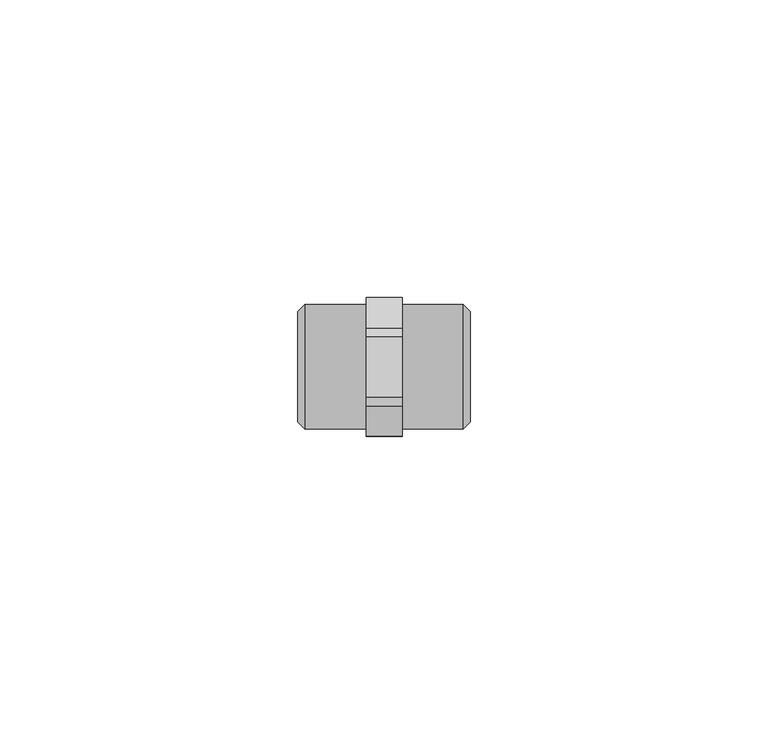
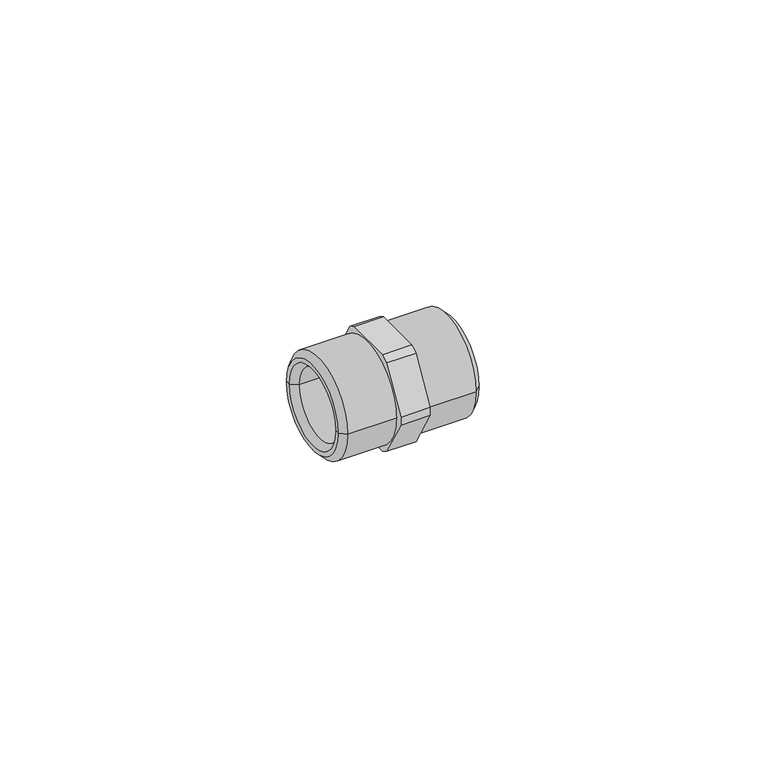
"""IFC4 building model written with IfcOpenShell, lengths in millimetres: pipe fitting geometry."""

from ifc_helpers import new_model, si_unit, point, frame, frame_2d, origin, place, context, project, spatial, polyline, circle_curve, trimmed, segment, composite_curve, outline, extrude, source, transform, mapped, element, save
from ifc_brep_helpers import plane_surface, cylinder_surface, revolved_surface, advanced_brep


def pipe_fitting_8efa302d(model_context):
    return source(origin(), model_context, "Body", "SolidModel", [
        extrude(outline(composite_curve([segment(trimmed(circle_curve(frame_2d((1.6797613, 2.909432)), 8.3039153), [point((5.0469986, 10.5))], [point((6.5697674, 9.620829))], False, "CARTESIAN"), True, "CONTINUOUS"), segment(polyline([(6.5697674, 9.620829), (11.6168203, 0.8790771)]), True, "CONTINUOUS"), segment(trimmed(circle_curve(frame_2d((3.5286375, 0.0)), 8.1358144), [point((11.6168203, 0.8790771))], [point((11.6168203, -0.8790771))], False, "CARTESIAN"), True, "CONTINUOUS"), segment(polyline([(11.6168203, -0.8790771), (6.569838, -9.6207068)]), True, "CONTINUOUS"), segment(trimmed(circle_curve(frame_2d((2.0180152, -3.7025928)), 7.4661345), [point((6.569838, -9.6207068))], [point((5.1064484, -10.5))], False, "CARTESIAN"), True, "CONTINUOUS"), segment(polyline([(5.1064484, -10.5), (-5.0469315, -10.5)]), True, "CONTINUOUS"), segment(trimmed(circle_curve(frame_2d((-2.6479149, -4.5863231)), 6.3817595), [point((-5.0469315, -10.5))], [point((-6.569801, -9.6207708))], False, "CARTESIAN"), True, "CONTINUOUS"), segment(polyline([(-6.569801, -9.6207708), (-11.6167813, -0.8791445)]), True, "CONTINUOUS"), segment(trimmed(circle_curve(frame_2d((-5.3215679, 0.0)), 6.3563045), [point((-11.6167813, -0.8791445))], [point((-11.6167813, 0.8791445))], False, "CARTESIAN"), True, "CONTINUOUS"), segment(polyline([(-11.6167813, 0.8791445), (-6.5697034, 9.6209398)]), True, "CONTINUOUS"), segment(trimmed(circle_curve(frame_2d((-2.9855673, 5.1712251)), 5.7136672), [point((-6.5697034, 9.6209398))], [point((-5.0471569, 10.5))], False, "CARTESIAN"), True, "CONTINUOUS"), segment(polyline([(-5.0471569, 10.5), (5.0469986, 10.5)]), True, "CONTINUOUS")], self_intersect=False)), frame((-2.992756, 0.0, 0.0), z_axis=(1.0, 0.0, 0.0), x_axis=(0.0, 1.0, 0.0)), (0.0, 0.0, 1.0), 6.0234902),
        advanced_brep(
        [(-14.5, -9.275001, 0.0), (-14.5, 9.275001, 0.0), (-13.2999999, 10.4750011, 0.0), (-13.2999999, -10.4750011, 0.0), (-14.5, -8.356519, 0.0), (-14.5, 8.356519, 0.0), (-13.0837207, -7.2500004, 0.0), (-13.0837207, 7.2500004, 0.0), (13.0837207, -7.2500004, 0.0), (13.0837207, 7.2500004, 0.0), (14.5, -8.356519, 0.0), (14.5, 8.356519, 0.0), (14.5, -9.275001, 0.0), (14.5, 9.275001, 0.0), (13.2999999, -10.4750011, 0.0), (13.2999999, 10.4750011, 0.0)],
        [
            (0, 1, circle_curve(frame((-14.5, 0.0, 0.0), z_axis=(1.0, 0.0, 0.0), x_axis=(0.0, 1.0, 0.0)), 9.275001)),
            (1, 2),
            (2, 3, circle_curve(frame((-13.2999999, 0.0, 0.0), z_axis=(-1.0, 0.0, 0.0), x_axis=(0.0, 1.0, 0.0)), 10.4750011)),
            (3, 0),
            (1, 0, circle_curve(frame((-14.5, 0.0, 0.0), z_axis=(1.0, 0.0, 0.0), x_axis=(0.0, 1.0, 0.0)), 9.275001)),
            (3, 2, circle_curve(frame((-13.2999999, 0.0, 0.0), z_axis=(-1.0, 0.0, 0.0), x_axis=(0.0, 1.0, 0.0)), 10.4750011)),
            (4, 5, circle_curve(frame((-14.5, 0.0, 0.0), z_axis=(1.0, 0.0, 0.0), x_axis=(0.0, 1.0, 0.0)), 8.356519)),
            (5, 1),
            (0, 4),
            (5, 4, circle_curve(frame((-14.5, 0.0, 0.0), z_axis=(1.0, 0.0, 0.0), x_axis=(0.0, 1.0, 0.0)), 8.356519)),
            (6, 7, circle_curve(frame((-13.0837207, 0.0, 0.0), z_axis=(1.0, 0.0, 0.0), x_axis=(0.0, 1.0, 0.0)), 7.2500004)),
            (7, 5),
            (4, 6),
            (7, 6, circle_curve(frame((-13.0837207, 0.0, 0.0), z_axis=(1.0, 0.0, 0.0), x_axis=(0.0, 1.0, 0.0)), 7.2500004)),
            (8, 9, circle_curve(frame((13.0837207, 0.0, 0.0), z_axis=(1.0, 0.0, 0.0), x_axis=(0.0, 1.0, 0.0)), 7.2500004)),
            (9, 7),
            (6, 8),
            (9, 8, circle_curve(frame((13.0837207, 0.0, 0.0), z_axis=(1.0, 0.0, 0.0), x_axis=(0.0, 1.0, 0.0)), 7.2500004)),
            (10, 11, circle_curve(frame((14.5, 0.0, 0.0), z_axis=(1.0, 0.0, 0.0), x_axis=(0.0, 1.0, 0.0)), 8.356519)),
            (11, 9),
            (8, 10),
            (11, 10, circle_curve(frame((14.5, 0.0, 0.0), z_axis=(1.0, 0.0, 0.0), x_axis=(0.0, 1.0, 0.0)), 8.356519)),
            (12, 13, circle_curve(frame((14.5, 0.0, 0.0), z_axis=(1.0, 0.0, 0.0), x_axis=(0.0, 1.0, 0.0)), 9.275001)),
            (13, 11),
            (10, 12),
            (13, 12, circle_curve(frame((14.5, 0.0, 0.0), z_axis=(1.0, 0.0, 0.0), x_axis=(0.0, 1.0, 0.0)), 9.275001)),
            (14, 15, circle_curve(frame((13.2999999, 0.0, 0.0), z_axis=(1.0, 0.0, 0.0), x_axis=(0.0, 1.0, 0.0)), 10.4750011)),
            (15, 13),
            (12, 14),
            (15, 14, circle_curve(frame((13.2999999, 0.0, 0.0), z_axis=(1.0, 0.0, 0.0), x_axis=(0.0, 1.0, 0.0)), 10.4750011)),
            (2, 15),
            (14, 3),
        ],
        [
            revolved_surface(polyline([(-13.2999999, 10.4750011, 0.0), (-14.5, 9.275001, 0.0)]), (-29.5, 0.0, 0.0), (-1.0, 0.0, 0.0)),
            plane_surface(frame((-14.5, 0.0, 0.0), z_axis=(-1.0, 0.0, 0.0), x_axis=(0.0, 1.0, 0.0))),
            revolved_surface(polyline([(-14.5, 8.356519, 0.0), (-13.0837207, 7.2500004, 0.0)]), (-29.5, 0.0, 0.0), (-1.0, 0.0, 0.0)),
            revolved_surface(polyline([(-13.0837207, 7.2500004, 0.0), (13.0837207, 7.2500004, 0.0)]), (-29.5, 0.0, 0.0), (-1.0, 0.0, 0.0)),
            revolved_surface(polyline([(13.0837207, 7.2500004, 0.0), (14.5, 8.356519, 0.0)]), (-29.5, 0.0, 0.0), (-1.0, 0.0, 0.0)),
            plane_surface(frame((14.5, 0.0, 0.0), z_axis=(1.0, 0.0, 0.0), x_axis=(0.0, 1.0, 0.0))),
            revolved_surface(polyline([(14.5, 9.275001, 0.0), (13.2999999, 10.4750011, 0.0)]), (-29.5, 0.0, 0.0), (-1.0, 0.0, 0.0)),
            cylinder_surface(frame((-29.5, 0.0, 0.0), z_axis=(-1.0, 0.0, 0.0), x_axis=(0.0, 1.0, 0.0)), 10.4750011),
        ],
        [
            (0, [[1, 2, 3, 4]]),
            (0, [[5, -4, 6, -2]]),
            (1, [[7, 8, -1, 9]]),
            (1, [[10, -9, -5, -8]]),
            (2, [[11, 12, -7, 13]]),
            (2, [[14, -13, -10, -12]]),
            (3, [[15, 16, -11, 17]]),
            (3, [[18, -17, -14, -16]]),
            (4, [[19, 20, -15, 21]]),
            (4, [[22, -21, -18, -20]]),
            (5, [[23, 24, -19, 25]]),
            (5, [[26, -25, -22, -24]]),
            (6, [[27, 28, -23, 29]]),
            (6, [[30, -29, -26, -28]]),
            (7, [[-3, 31, -27, 32]]),
            (7, [[-6, -32, -30, -31]]),
        ],
    ),
    ])


if __name__ == "__main__":
    model = new_model("IFC4")
    model_context = context("Model", 3, world=origin())
    ifc_project = project(units=[si_unit("LENGTHUNIT", "METRE", prefix="MILLI")], contexts=[model_context])
    site = spatial("IfcSite", under=ifc_project)
    building = spatial("IfcBuilding", under=site)
    placement = place(None, origin())
    pipe_fitting_shape = pipe_fitting_8efa302d(model_context)
    element("IfcPipeFitting", 1, ObjectType="Coupling Nipple 1/2\"MT : Superpipe Coupling Nipple - 1/2\"MT-1/2\"MT", at=placement, inside=building, context=model_context, shape_type="MappedRepresentation", body=[
        mapped(pipe_fitting_shape, transform((0.0, 0.0, 0.0), x_axis=(1.0, 0.0, 0.0), y_axis=(0.0, 1.0, 0.0), z_axis=(0.0, 0.0, 1.0))),
    ])
    save(model, "model.ifc")
